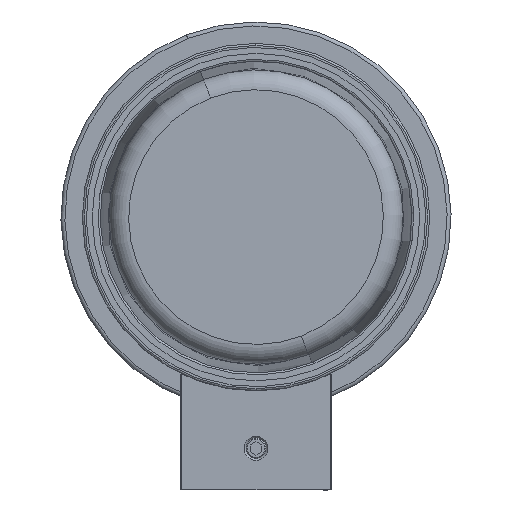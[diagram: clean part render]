
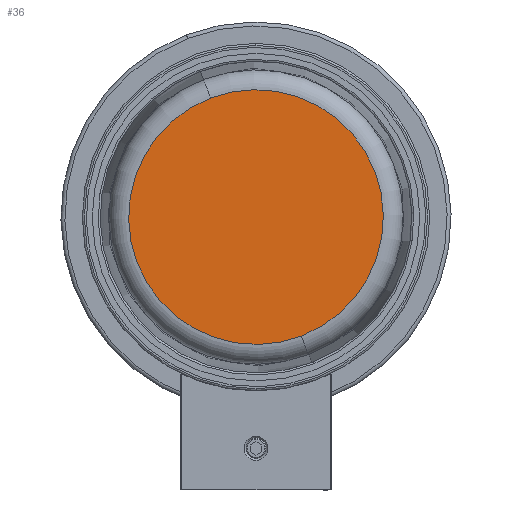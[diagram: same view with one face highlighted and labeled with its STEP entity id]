
A CAD part, front view. The second image highlights one B-rep face of the part: STEP entity #36.
In plain terms, the highlighted planar face has unit normal (0, -1, 0).
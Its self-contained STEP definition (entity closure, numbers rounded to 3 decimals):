
#13 = CARTESIAN_POINT ( 'NONE',  ( -3.552, -104.485, -4.378 ) ) ;
#36 = ADVANCED_FACE ( 'NONE', ( #3314 ), #3959, .T. ) ;
#355 = DIRECTION ( 'NONE',  ( 0., 1., 0. ) ) ;
#653 = DIRECTION ( 'NONE',  ( -0.357, 0., 0.934 ) ) ;
#741 = CARTESIAN_POINT ( 'NONE',  ( -15.005, -104.485, 25.592 ) ) ;
#1008 = ORIENTED_EDGE ( 'NONE', *, *, #3940, .F. ) ;
#1096 = DIRECTION ( 'NONE',  ( 0.357, 0., -0.934 ) ) ;
#1472 = EDGE_LOOP ( 'NONE', ( #1008, #2979 ) ) ;
#1751 = AXIS2_PLACEMENT_3D ( 'NONE', #13, #355, #3223 ) ;
#1820 = CARTESIAN_POINT ( 'NONE',  ( 7.901, -104.485, -34.348 ) ) ;
#2098 = EDGE_CURVE ( 'NONE', #3990, #3821, #3395, .T. ) ;
#2235 = AXIS2_PLACEMENT_3D ( 'NONE', #3902, #2818, #653 ) ;
#2421 = CARTESIAN_POINT ( 'NONE',  ( -15.005, -104.485, 25.592 ) ) ;
#2818 = DIRECTION ( 'NONE',  ( 0., 1., 0. ) ) ;
#2883 = AXIS2_PLACEMENT_3D ( 'NONE', #741, #3279, #1096 ) ;
#2979 = ORIENTED_EDGE ( 'NONE', *, *, #2098, .F. ) ;
#3223 = DIRECTION ( 'NONE',  ( -0.357, 0., 0.934 ) ) ;
#3279 = DIRECTION ( 'NONE',  ( 0., -1., 0. ) ) ;
#3314 = FACE_OUTER_BOUND ( 'NONE', #1472, .T. ) ;
#3395 = CIRCLE ( 'NONE', #1751, 32.084 ) ;
#3821 = VERTEX_POINT ( 'NONE', #2421 ) ;
#3902 = CARTESIAN_POINT ( 'NONE',  ( -3.552, -104.485, -4.378 ) ) ;
#3940 = EDGE_CURVE ( 'NONE', #3821, #3990, #4034, .T. ) ;
#3959 = PLANE ( 'NONE',  #2883 ) ;
#3990 = VERTEX_POINT ( 'NONE', #1820 ) ;
#4034 = CIRCLE ( 'NONE', #2235, 32.084 ) ;
